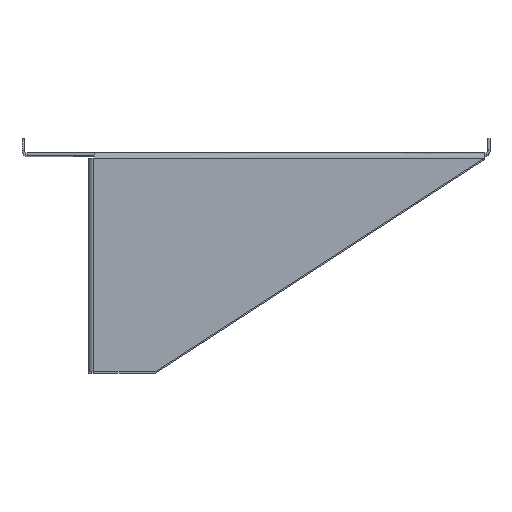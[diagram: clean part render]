
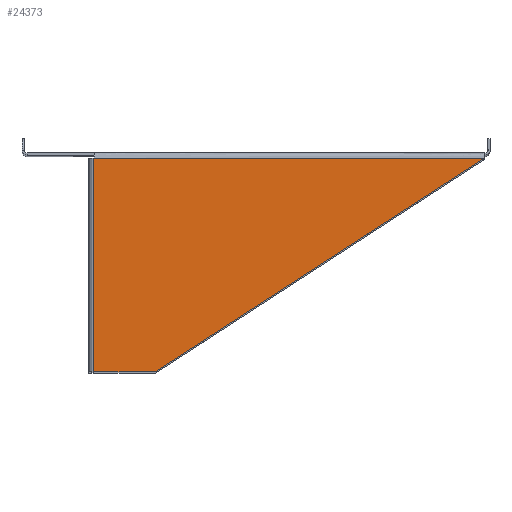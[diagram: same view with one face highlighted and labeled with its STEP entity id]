
A CAD part, top view. The second image highlights one B-rep face of the part: STEP entity #24373.
In plain terms, the highlighted free-form (B-spline) face has degree [1, 1] with [2, 2] control points.
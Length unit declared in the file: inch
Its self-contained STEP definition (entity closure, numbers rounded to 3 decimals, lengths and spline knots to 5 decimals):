
#24204=CARTESIAN_POINT('V875',(15.5239,-1.23018,
   19.0));
#24205=VERTEX_POINT('V875',#24204);
#24212=CARTESIAN_POINT('V874',(15.5239,-1.23518,
   19.0));
#24213=VERTEX_POINT('V874',#24212);
#24219=CARTESIAN_POINT('E1309',(15.5239,
   -1.23518,19.0));
#24220=CARTESIAN_POINT('E1309',(15.5239,
   -1.23018,19.0));
#24221=QUASI_UNIFORM_CURVE('E1309',1,(#24219,#24220),.POLYLINE_FORM.,
   .F.,.U.);
#24222=EDGE_CURVE('E1309',#24213,#24205,#24221,.T.);
#24234=CARTESIAN_POINT('V873',(15.5139,-1.23518,
   19.0));
#24235=VERTEX_POINT('V873',#24234);
#24241=CARTESIAN_POINT('E1308',(15.5139,
   -1.23518,19.0));
#24242=CARTESIAN_POINT('E1308',(15.5239,
   -1.23518,19.0));
#24243=QUASI_UNIFORM_CURVE('E1308',1,(#24241,#24242),.POLYLINE_FORM.,
   .F.,.U.);
#24244=EDGE_CURVE('E1308',#24235,#24213,#24243,.T.);
#24287=CARTESIAN_POINT('V872',(15.5139,-6.02018,
   19.0));
#24288=VERTEX_POINT('V872',#24287);
#24289=CARTESIAN_POINT('E1307',(15.5139,
   -6.02018,19.0));
#24290=CARTESIAN_POINT('E1307',(15.5139,
   -1.23518,19.0));
#24291=QUASI_UNIFORM_CURVE('E1307',1,(#24289,#24290),.POLYLINE_FORM.,
   .F.,.U.);
#24292=EDGE_CURVE('E1307',#24288,#24235,#24291,.T.);
#24335=CARTESIAN_POINT('V871',(16.8909,-6.02018,
   19.0));
#24336=VERTEX_POINT('V871',#24335);
#24342=CARTESIAN_POINT('E1306',(16.8909,
   -6.02018,19.0));
#24343=CARTESIAN_POINT('E1306',(15.5139,
   -6.02018,19.0));
#24344=QUASI_UNIFORM_CURVE('E1306',1,(#24342,#24343),.POLYLINE_FORM.,
   .F.,.U.);
#24345=EDGE_CURVE('E1306',#24336,#24288,#24344,.T.);
#24350=CARTESIAN_POINT('F440',(24.26958,-1.229,
   19.0));
#24351=CARTESIAN_POINT('F440',(24.26958,-6.02136,
   19.0));
#24352=CARTESIAN_POINT('F440',(15.51272,-1.229,
   19.0));
#24353=CARTESIAN_POINT('F440',(15.51272,-6.02136,
   19.0));
#24354=QUASI_UNIFORM_SURFACE('F440',1,1,((#24350,#24352),(#24351,
   #24353)),.PLANE_SURF.,.F.,.F.,.U.);
#24355=CARTESIAN_POINT('V876',(24.2684,-1.23018,
   19.0));
#24356=VERTEX_POINT('V876',#24355);
#24357=CARTESIAN_POINT('E1311',(24.2684,
   -1.23018,19.0));
#24358=CARTESIAN_POINT('E1311',(16.8909,
   -6.02018,19.0));
#24359=QUASI_UNIFORM_CURVE('E1311',1,(#24357,#24358),.POLYLINE_FORM.,
   .F.,.U.);
#24360=EDGE_CURVE('E1311',#24356,#24336,#24359,.T.);
#24361=ORIENTED_EDGE('E1311',*,*,#24360,.F.);
#24362=CARTESIAN_POINT('E1310',(15.5239,
   -1.23018,19.0));
#24363=CARTESIAN_POINT('E1310',(24.2684,
   -1.23018,19.0));
#24364=QUASI_UNIFORM_CURVE('E1310',1,(#24362,#24363),.POLYLINE_FORM.,
   .F.,.U.);
#24365=EDGE_CURVE('E1310',#24205,#24356,#24364,.T.);
#24366=ORIENTED_EDGE('E1310',*,*,#24365,.F.);
#24367=ORIENTED_EDGE('F841',*,*,#24222,.F.);
#24368=ORIENTED_EDGE('F842',*,*,#24244,.F.);
#24369=ORIENTED_EDGE('E1307',*,*,#24292,.F.);
#24370=ORIENTED_EDGE('F837',*,*,#24345,.F.);
#24371=EDGE_LOOP('F440',(#24361,#24366,#24367,#24368,#24369,#24370)
   );
#24372=FACE_OUTER_BOUND('F440',#24371,.T.);
#24373=ADVANCED_FACE('F440',(#24372),#24354,.F.);
